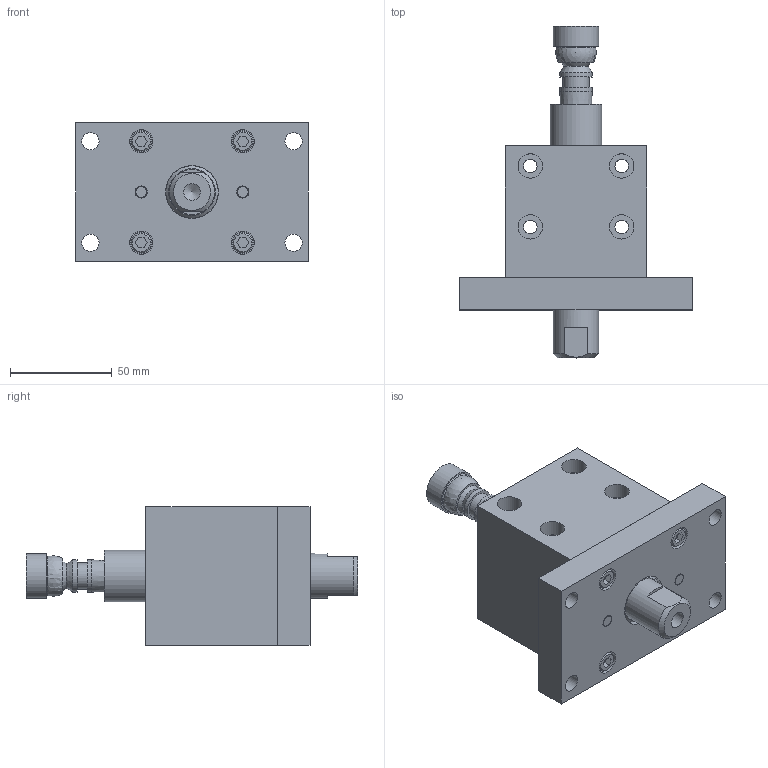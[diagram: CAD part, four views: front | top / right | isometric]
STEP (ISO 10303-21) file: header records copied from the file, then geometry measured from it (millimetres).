
FILE_DESCRIPTION(/* description */ ('PASS THRU GROUND UNIT'),/* implementation_level */ '2;1');
FILE_NAME(/* name */ 'C:\Vault Workspace\CAD\Welker\Cylinders\GBS\GBSE.stp',/* time_stamp */ '2021-06-24T14:09:24-04:00',/* author */ ('KPL'),/* organization */ (''),/* preprocessor_version */ 'ST-DEVELOPER v18.1',/* originating_system */ 'Autodesk Inventor 2020',/* authorisation */ '');
FILE_SCHEMA (('AUTOMOTIVE_DESIGN { 1 0 10303 214 3 1 1 }'));
Products named in the file (11): GBSL01; AN-09U2145; AN-07U2145; 6mmX25 ; M3X0.5-10 SHCS; M6X1-20 SHCS; NL6; SN-157; GBSE01; GBSE02; GBSE03
Assembly tree (17 placements, depth 2):
  GBSL01
    AN-09U2145
    AN-07U2145
    6mmX25   x2
    M3X0.5-10 SHCS
    M6X1-20 SHCS  x4
    NL6  x4
    SN-157
    GBSE01
    GBSE02
    GBSE03
Bounding box: 114.3 x 163.5 x 68 mm (x, y, z)
Volume: 408864.6 mm3; surface area: 89320.4 mm2
Topology: 17 solids, 17 shells, 213 faces, 499 edges, 353 vertices
Faces by surface type: plane 109, cylinder 70, cone 30, torus 2, sphere 2
Full cylindrical faces by diameter (mm): 3 x1, 4.917 x4, 5.5 x1, 6 x10, 6.5 x8, 6.647 x4, 8 x2, 8.376 x1, 8.5 x4, 10 x4, 10.8 x4, 11.5 x4, 12 x4, 13 x1, 15.875 x3, 22.225 x2, 22.352 x1, 25.4 x2, 25.984 x1, 26.162 x1, 28.575 x1, 29.134 x1, 29.159 x1, 29.185 x1, 32.258 x1, 32.309 x1, 36.5 x2
Entity records: 5376 total; most frequent: DIRECTION 966, CARTESIAN_POINT 842, ORIENTED_EDGE 752, AXIS2_PLACEMENT_3D 410, EDGE_CURVE 376, VERTEX_POINT 280, EDGE_LOOP 230, CIRCLE 228
